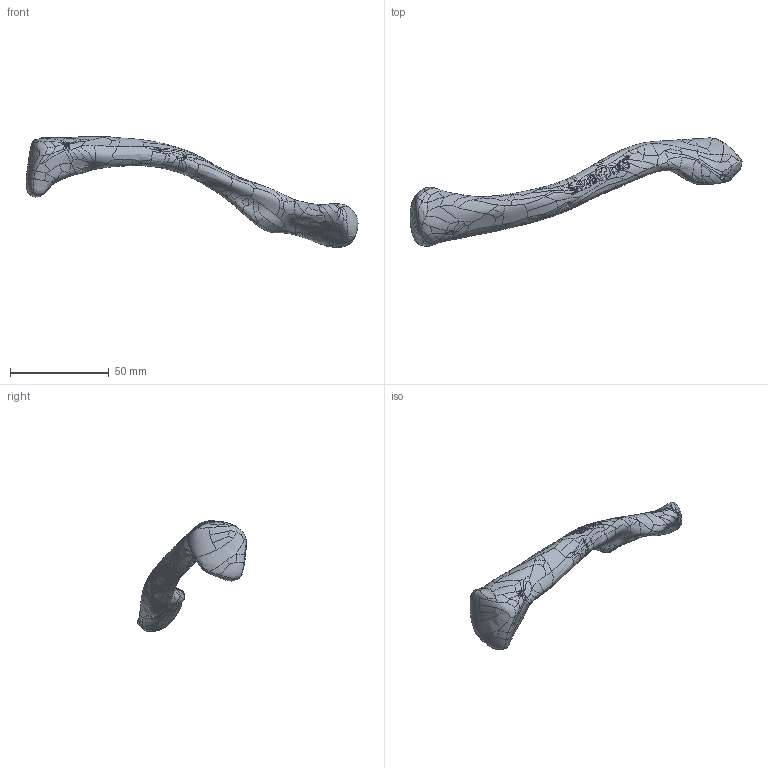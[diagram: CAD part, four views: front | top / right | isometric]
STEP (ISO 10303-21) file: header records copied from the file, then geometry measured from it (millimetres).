
FILE_DESCRIPTION (( 'STEP AP203' ), '1' );
FILE_NAME ('3408-1.STEP', '2025-06-10T20:41:40', ( '' ), ( '' ), 'SwSTEP 2.0', 'SolidWorks 2024', '' );
FILE_SCHEMA (( 'CONFIG_CONTROL_DESIGN' ));
Products named in the file (1): 3408-1
Bounding box: 168.11 x 54.94 x 56.22 mm (x, y, z)
Volume: 39613.7 mm3; surface area: 10456.3 mm2
Topology: 1 solids, 1 shells, 646 faces, 1639 edges, 994 vertices
Faces by surface type: bspline 645, plane 1
Entity records: 1039362 total; most frequent: CARTESIAN_POINT 1029149, ORIENTED_EDGE 3272, B_SPLINE_CURVE_WITH_KNOTS 1636, EDGE_CURVE 1636, VERTEX_POINT 994, EDGE_LOOP 648, ADVANCED_FACE 646, FACE_OUTER_BOUND 646
